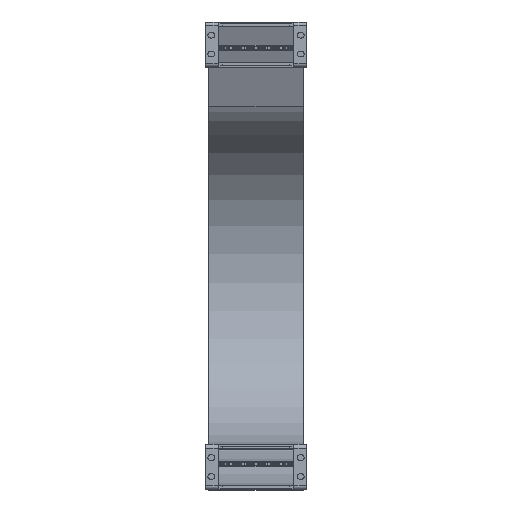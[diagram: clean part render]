
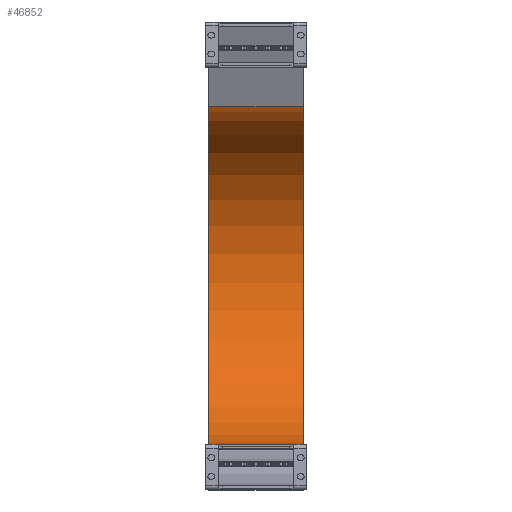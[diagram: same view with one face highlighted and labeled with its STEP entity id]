
A CAD part, top view. The second image highlights one B-rep face of the part: STEP entity #46852.
In plain terms, the highlighted cylindrical face has radius 134.5 mm (diameter 269 mm), a partial arc.
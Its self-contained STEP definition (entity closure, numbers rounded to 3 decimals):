
#46004=DIRECTION('',(-1.,0.,0.));
#46005=VECTOR('',#46004,75.);
#46006=CARTESIAN_POINT('',(37.5,36.,-400.));
#46007=LINE('',#46006,#46005);
#46018=DIRECTION('',(-1.,0.,0.));
#46019=VECTOR('',#46018,75.);
#46020=CARTESIAN_POINT('',(37.5,304.499,-411.602));
#46021=LINE('',#46020,#46019);
#46025=CARTESIAN_POINT('',(37.5,170.5,-400.));
#46026=DIRECTION('',(-1.,0.,0.));
#46027=DIRECTION('',(0.,0.996,-0.086));
#46028=AXIS2_PLACEMENT_3D('',#46025,#46026,#46027);
#46104=CARTESIAN_POINT('',(-37.5,170.5,-400.));
#46105=DIRECTION('',(-1.,0.,0.));
#46106=DIRECTION('',(0.,0.996,-0.086));
#46107=AXIS2_PLACEMENT_3D('',#46104,#46105,#46106);
#46226=CARTESIAN_POINT('',(37.5,304.499,-411.602));
#46227=CARTESIAN_POINT('',(-37.5,304.499,-411.602));
#46228=VERTEX_POINT('',#46226);
#46229=VERTEX_POINT('',#46227);
#46250=CARTESIAN_POINT('',(37.5,36.,-400.));
#46251=CARTESIAN_POINT('',(-37.5,36.,-400.));
#46252=VERTEX_POINT('',#46250);
#46253=VERTEX_POINT('',#46251);
#46838=CARTESIAN_POINT('',(1.,170.5,-400.));
#46839=DIRECTION('',(-1.,0.,0.));
#46840=DIRECTION('',(0.,-0.996,0.086));
#46841=AXIS2_PLACEMENT_3D('',#46838,#46839,#46840);
#46842=CYLINDRICAL_SURFACE('',#46841,134.5);
#46844=ORIENTED_EDGE('',*,*,#46843,.F.);
#46846=ORIENTED_EDGE('',*,*,#46845,.T.);
#46847=ORIENTED_EDGE('',*,*,#46821,.T.);
#46849=ORIENTED_EDGE('',*,*,#46848,.F.);
#46850=EDGE_LOOP('',(#46844,#46846,#46847,#46849));
#46851=FACE_OUTER_BOUND('',#46850,.F.);
#46029=CIRCLE('',#46028,134.5);
#46108=CIRCLE('',#46107,134.5);
#46821=EDGE_CURVE('',#46252,#46253,#46007,.T.);
#46843=EDGE_CURVE('',#46228,#46229,#46021,.T.);
#46845=EDGE_CURVE('',#46228,#46252,#46029,.T.);
#46848=EDGE_CURVE('',#46229,#46253,#46108,.T.);
#46852=ADVANCED_FACE('',(#46851),#46842,.F.);
